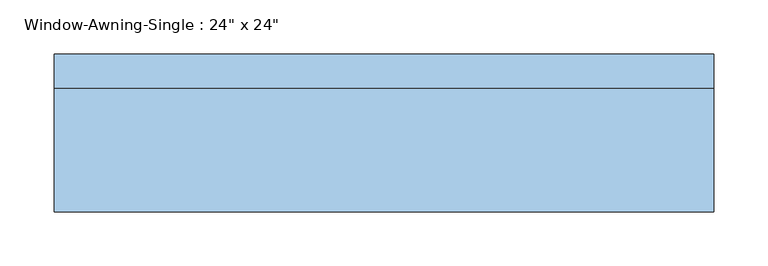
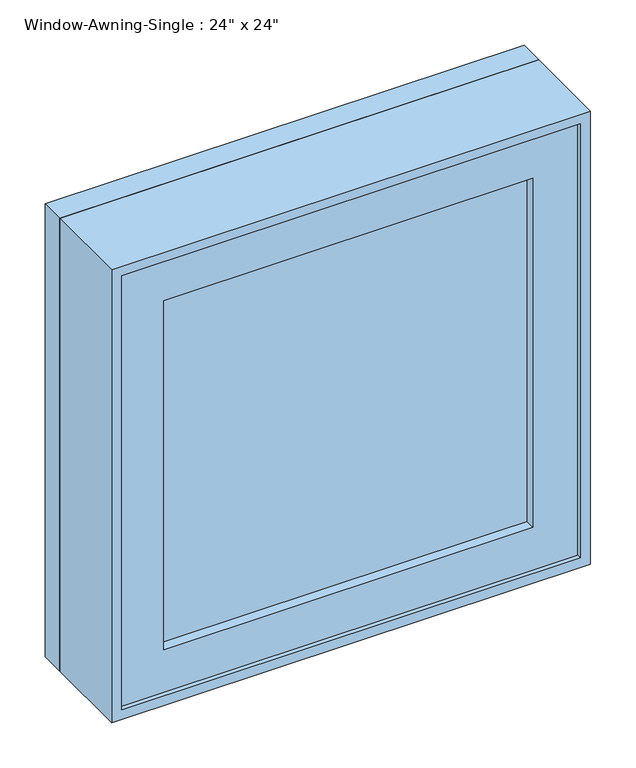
"""IFC4 building model written with IfcOpenShell, lengths in millimetres: window geometry."""

from ifc_helpers import new_model, si_unit, frame, origin, place, context, project, spatial, polyline, outline, extrude, faceted_brep, source, transform, mapped, element, save


def window_735a8cd5(model_context):
    return source(origin(), model_context, "Body", "SolidModel", [
        extrude(outline(polyline([(1524.0, -304.8), (914.4, -304.8), (914.4, 304.8), (1524.0, 304.8), (1524.0, -304.8)]), holes=[polyline([(1504.95, -285.75), (1504.95, 285.75), (933.45, 285.75), (933.45, -285.75), (1504.95, -285.75)])]), frame((0.0, 31.75, 0.0), z_axis=(0.0, 1.0, 0.0), x_axis=(0.0, 0.0, 1.0)), (0.0, 0.0, 1.0), 31.75),
        extrude(outline(polyline([(1511.3, -292.1), (927.1, -292.1), (927.1, 292.1), (1511.3, 292.1), (1511.3, -292.1)]), holes=[polyline([(984.25, -234.95), (1454.15, -234.95), (1454.15, 234.95), (984.25, 234.95), (984.25, -234.95)])]), frame((0.0, -76.2, 0.0), z_axis=(0.0, 1.0, 0.0), x_axis=(0.0, 0.0, 1.0)), (0.0, 0.0, 1.0), 44.45),
        extrude(outline(polyline([(234.95, -63.5), (-234.95, -63.5), (-234.95, -57.15), (234.95, -57.15), (234.95, -63.5)])), frame((0.0, 0.0, 984.25), z_axis=(0.0, 0.0, 1.0), x_axis=(1.0, 0.0, 0.0)), (0.0, 0.0, 1.0), 469.9),
        extrude(outline(polyline([(234.95, -50.8), (-234.95, -50.8), (-234.95, -44.45), (234.95, -44.45), (234.95, -50.8)])), frame((0.0, 0.0, 984.25), z_axis=(0.0, 0.0, 1.0), x_axis=(1.0, 0.0, 0.0)), (0.0, 0.0, 1.0), 469.9),
        faceted_brep([(292.1, -31.75, 927.1), (-292.1, -31.75, 927.1), (-292.1, -82.55, 927.1), (292.1, -82.55, 927.1), (273.05, 31.75, 946.15), (-273.05, 31.75, 946.15), (-273.05, -31.75, 946.15), (273.05, -31.75, 946.15), (304.8, -82.55, 914.4), (-304.8, -82.55, 914.4), (-304.8, 31.75, 914.4), (304.8, 31.75, 914.4), (-292.1, -31.75, 1511.3), (-292.1, -82.55, 1511.3), (-273.05, 31.75, 1492.25), (-273.05, -31.75, 1492.25), (-304.8, -82.55, 1524.0), (-304.8, 31.75, 1524.0), (292.1, -31.75, 1511.3), (292.1, -82.55, 1511.3), (273.05, 31.75, 1492.25), (273.05, -31.75, 1492.25), (304.8, -82.55, 1524.0), (304.8, 31.75, 1524.0)], [[[0, 1, 2, 3]], [[4, 5, 6, 7]], [[8, 9, 10, 11]], [[1, 12, 13, 2]], [[5, 14, 15, 6]], [[9, 16, 17, 10]], [[12, 18, 19, 13]], [[14, 20, 21, 15]], [[16, 22, 23, 17]], [[9, 8, 22, 16], [3, 2, 13, 19]], [[18, 0, 3, 19]], [[1, 0, 18, 12], [7, 6, 15, 21]], [[20, 4, 7, 21]], [[11, 10, 17, 23], [5, 4, 20, 14]], [[22, 8, 11, 23]]]),
    ])


if __name__ == "__main__":
    model = new_model("IFC4")
    model_context = context("Model", 3, world=origin())
    ifc_project = project(units=[si_unit("LENGTHUNIT", "METRE", prefix="MILLI")], contexts=[model_context])
    site = spatial("IfcSite", under=ifc_project)
    building = spatial("IfcBuilding", under=site)
    placement = place(None, origin())
    window_shape = window_735a8cd5(model_context)
    element("IfcWindow", 1, ObjectType="Window-Awning-Single : 24\" x 24\"", at=placement, inside=building, context=model_context, shape_type="MappedRepresentation", body=[
        mapped(window_shape, transform((0.0, 0.0, 0.0), x_axis=(1.0, 0.0, 0.0), y_axis=(0.0, 1.0, 0.0), z_axis=(0.0, 0.0, 1.0))),
    ])
    save(model, "model.ifc")
